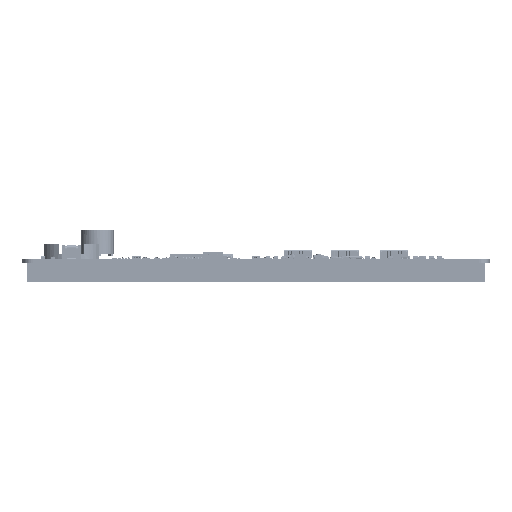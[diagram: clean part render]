
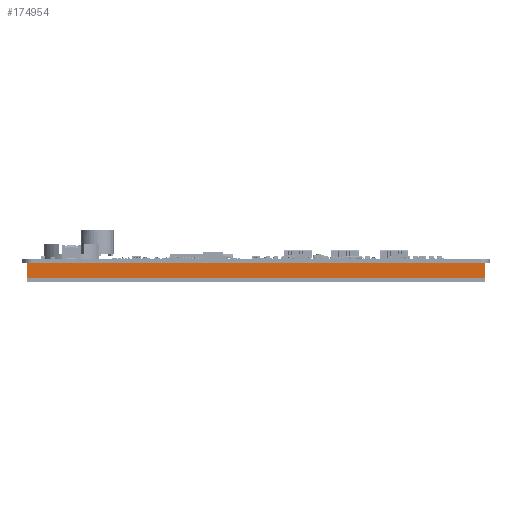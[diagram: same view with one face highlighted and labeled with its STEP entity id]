
A CAD part, left-side view. The second image highlights one B-rep face of the part: STEP entity #174954.
In plain terms, the highlighted planar face has unit normal (-1, 0, 0) as drawn and (1, 0, 0) by its records, which use the part's own axes.
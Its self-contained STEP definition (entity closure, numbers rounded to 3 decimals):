
#26447=FACE_OUTER_BOUND('',#36417,.T.);
#36417=EDGE_LOOP('',(#159700,#159701,#159702,#159703));
#57327=LINE('',#329021,#74146);
#57335=LINE('',#329036,#74154);
#57336=LINE('',#329038,#74155);
#57337=LINE('',#329039,#74156);
#74146=VECTOR('',#234580,10.);
#74154=VECTOR('',#234592,10.);
#74155=VECTOR('',#234595,10.);
#74156=VECTOR('',#234596,10.);
#88865=VERTEX_POINT('',#329018);
#88866=VERTEX_POINT('',#329020);
#88870=VERTEX_POINT('',#329032);
#88871=VERTEX_POINT('',#329034);
#112477=EDGE_CURVE('',#88865,#88866,#57327,.T.);
#112485=EDGE_CURVE('',#88870,#88871,#57335,.T.);
#112486=EDGE_CURVE('',#88865,#88870,#57336,.T.);
#112487=EDGE_CURVE('',#88866,#88871,#57337,.T.);
#159700=ORIENTED_EDGE('',*,*,#112486,.T.);
#159701=ORIENTED_EDGE('',*,*,#112485,.T.);
#159702=ORIENTED_EDGE('',*,*,#112487,.F.);
#159703=ORIENTED_EDGE('',*,*,#112477,.F.);
#165403=PLANE('',#190564);
#174954=ADVANCED_FACE('',(#26447),#165403,.T.);
#190564=AXIS2_PLACEMENT_3D('',#329037,#234593,#234594);
#234580=DIRECTION('',(0.,1.,0.));
#234592=DIRECTION('',(0.,1.,0.));
#234593=DIRECTION('center_axis',(1.,0.,0.));
#234594=DIRECTION('ref_axis',(0.,0.,-1.));
#234595=DIRECTION('',(0.,0.,-1.));
#234596=DIRECTION('',(0.,0.,-1.));
#329018=CARTESIAN_POINT('',(211.4,0.,0.));
#329020=CARTESIAN_POINT('',(211.4,5.3,0.));
#329021=CARTESIAN_POINT('',(211.4,0.,0.));
#329032=CARTESIAN_POINT('',(211.4,0.,-167.3));
#329034=CARTESIAN_POINT('',(211.4,5.3,-167.3));
#329036=CARTESIAN_POINT('',(211.4,0.,-167.3));
#329037=CARTESIAN_POINT('Origin',(211.4,0.,0.));
#329038=CARTESIAN_POINT('',(211.4,0.,0.));
#329039=CARTESIAN_POINT('',(211.4,5.3,0.));
